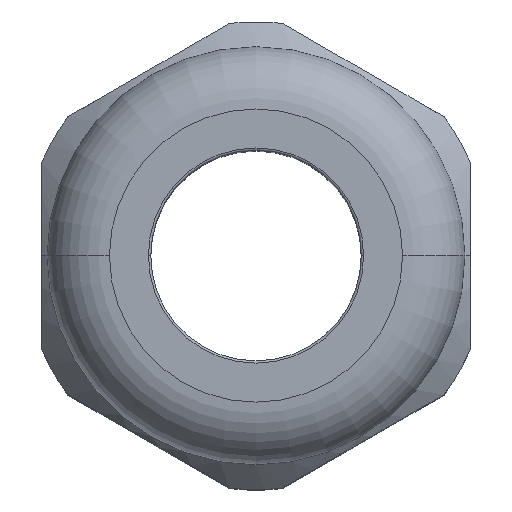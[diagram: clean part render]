
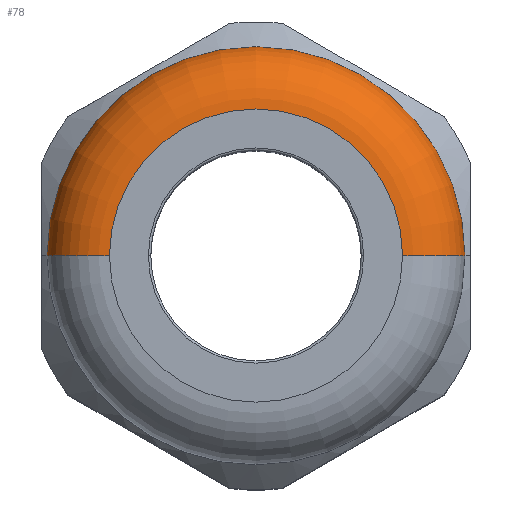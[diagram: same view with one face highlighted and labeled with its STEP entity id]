
A CAD part, top view. The second image highlights one B-rep face of the part: STEP entity #78.
In plain terms, the highlighted toroidal (fillet/blend) face has major radius 18.8 mm and minor radius 8 mm.
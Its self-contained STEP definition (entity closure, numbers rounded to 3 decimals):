
#9 = EDGE_CURVE ( 'NONE', #101, #29, #1957, .T. ) ;
#14 = ORIENTED_EDGE ( 'NONE', *, *, #15, .F. ) ;
#15 = EDGE_CURVE ( 'NONE', #101, #93, #1941, .T. ) ;
#16 = VERTEX_POINT ( 'NONE', #1937 ) ;
#17 = ORIENTED_EDGE ( 'NONE', *, *, #9, .T. ) ;
#29 = VERTEX_POINT ( 'NONE', #1970 ) ;
#78 = ADVANCED_FACE ( 'NONE', ( #2071 ), #2068, .T. ) ;
#84 = ORIENTED_EDGE ( 'NONE', *, *, #1479, .F. ) ;
#92 = EDGE_CURVE ( 'NONE', #29, #16, #2145, .T. ) ;
#93 = VERTEX_POINT ( 'NONE', #2140 ) ;
#101 = VERTEX_POINT ( 'NONE', #2194 ) ;
#102 = ORIENTED_EDGE ( 'NONE', *, *, #92, .T. ) ;
#515 = DIRECTION ( 'NONE',  ( -1., 0., 0. ) ) ;
#516 = DIRECTION ( 'NONE',  ( 0., 0., -1. ) ) ;
#517 = CARTESIAN_POINT ( 'NONE',  ( 0., 0., 53.5 ) ) ;
#518 = AXIS2_PLACEMENT_3D ( 'NONE', #517, #516, #515 ) ;
#519 = CIRCLE ( 'NONE', #518, 26.8 ) ;
#1479 = EDGE_CURVE ( 'NONE', #93, #16, #519, .T. ) ;
#1489 = EDGE_LOOP ( 'NONE', ( #17, #102, #84, #14 ) ) ;
#1937 = CARTESIAN_POINT ( 'NONE',  ( 26.8, 0., 53.5 ) ) ;
#1938 = DIRECTION ( 'NONE',  ( 0., 0., -1. ) ) ;
#1939 = DIRECTION ( 'NONE',  ( 0., -1., 0. ) ) ;
#1940 = AXIS2_PLACEMENT_3D ( 'NONE', #1946, #1939, #1938 ) ;
#1941 = CIRCLE ( 'NONE', #1940, 8. ) ;
#1946 = CARTESIAN_POINT ( 'NONE',  ( -18.8, 0., 53.5 ) ) ;
#1953 = DIRECTION ( 'NONE',  ( -1., 0., 0. ) ) ;
#1954 = DIRECTION ( 'NONE',  ( 0., 0., -1. ) ) ;
#1955 = CARTESIAN_POINT ( 'NONE',  ( 0., 0., 61.5 ) ) ;
#1956 = AXIS2_PLACEMENT_3D ( 'NONE', #1955, #1954, #1953 ) ;
#1957 = CIRCLE ( 'NONE', #1956, 18.8 ) ;
#1970 = CARTESIAN_POINT ( 'NONE',  ( 18.8, 0., 61.5 ) ) ;
#2065 = DIRECTION ( 'NONE',  ( -1., 0., 0. ) ) ;
#2066 = DIRECTION ( 'NONE',  ( 0., 0., -1. ) ) ;
#2067 = AXIS2_PLACEMENT_3D ( 'NONE', #2070, #2066, #2065 ) ;
#2068 = TOROIDAL_SURFACE ( 'NONE', #2067, 18.8, 8. ) ;
#2070 = CARTESIAN_POINT ( 'NONE',  ( 0., 0., 53.5 ) ) ;
#2071 = FACE_OUTER_BOUND ( 'NONE', #1489, .T. ) ;
#2140 = CARTESIAN_POINT ( 'NONE',  ( -26.8, 0., 53.5 ) ) ;
#2141 = DIRECTION ( 'NONE',  ( -1., 0., 0. ) ) ;
#2142 = DIRECTION ( 'NONE',  ( 0., 1., 0. ) ) ;
#2143 = CARTESIAN_POINT ( 'NONE',  ( 18.8, 0., 53.5 ) ) ;
#2144 = AXIS2_PLACEMENT_3D ( 'NONE', #2143, #2142, #2141 ) ;
#2145 = CIRCLE ( 'NONE', #2144, 8. ) ;
#2194 = CARTESIAN_POINT ( 'NONE',  ( -18.8, 0., 61.5 ) ) ;
